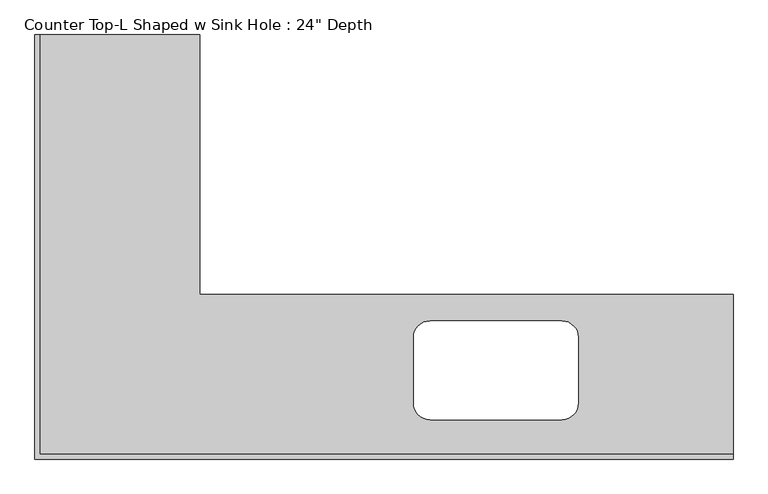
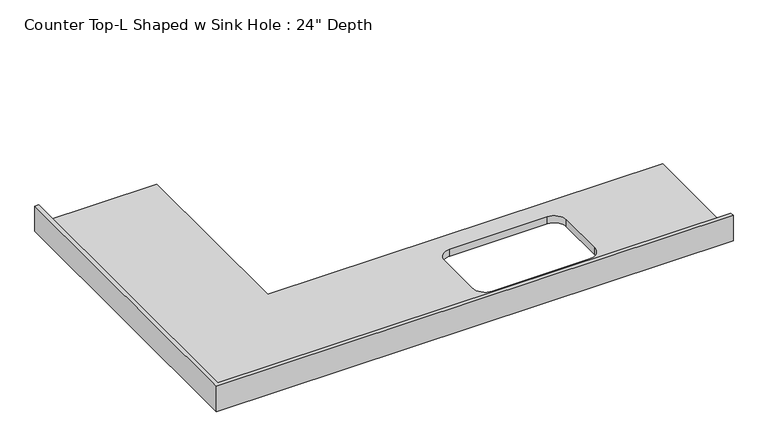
"""IFC4 building model written with IfcOpenShell, lengths in millimetres: furniture geometry."""

from ifc_helpers import new_model, si_unit, frame, origin, place, context, project, spatial, polyline, circle_curve, source, transform, mapped, element, save
from ifc_brep_helpers import plane_surface, revolved_surface, advanced_brep


def furniture_796cbd9a(model_context):
    return source(origin(), model_context, "Body", "AdvancedBrep", [
        advanced_brep(
        [(-565.4622951, 1637.5556117, 863.6), (-1181.4122951, 1637.5556117, 863.6), (-1181.4122951, 19.05, 863.6), (1491.9377049, 19.05, 863.6), (1491.9377049, 635.0, 863.6), (-565.4622951, 635.0, 863.6), (831.5377049, 152.4, 863.6), (323.5377049, 152.4, 863.6), (260.0377049, 215.9, 863.6), (260.0377049, 469.9, 863.6), (323.5377049, 533.4, 863.6), (831.5377049, 533.4, 863.6), (895.0377049, 469.9, 863.6), (895.0377049, 215.9, 863.6), (1491.9377049, 0.0, 825.5), (-1200.4622951, 0.0, 825.5), (-1200.4622951, 1637.5556117, 825.5), (-565.4622951, 1637.5556117, 825.5), (-565.4622951, 635.0, 825.5), (1491.9377049, 635.0, 825.5), (831.5377049, 152.4, 825.5), (895.0377049, 215.9, 825.5), (895.0377049, 469.9, 825.5), (831.5377049, 533.4, 825.5), (323.5377049, 533.4, 825.5), (260.0377049, 469.9, 825.5), (260.0377049, 215.9, 825.5), (323.5377049, 152.4, 825.5), (1491.9377049, 0.0, 965.2), (-1200.4622951, 0.0, 965.2), (-1200.4622951, 1637.5556117, 965.2), (-1181.4122951, 1637.5556117, 965.2), (1491.9377049, 19.05, 965.2), (-1181.4122951, 19.05, 965.2)],
        [
            (0, 1),
            (1, 2),
            (2, 3),
            (3, 4),
            (4, 5),
            (5, 0),
            (6, 7),
            (7, 8, circle_curve(frame((323.5377049, 215.9, 863.6), z_axis=(0.0, 0.0, -1.0), x_axis=(1.0, 0.0, 0.0)), 63.5)),
            (8, 9),
            (9, 10, circle_curve(frame((323.5377049, 469.9, 863.6), z_axis=(0.0, 0.0, -1.0), x_axis=(1.0, 0.0, 0.0)), 63.5)),
            (10, 11),
            (11, 12, circle_curve(frame((831.5377049, 469.9, 863.6), z_axis=(0.0, 0.0, -1.0), x_axis=(1.0, 0.0, 0.0)), 63.5)),
            (12, 13),
            (13, 6, circle_curve(frame((831.5377049, 215.9, 863.6), z_axis=(0.0, 0.0, -1.0), x_axis=(1.0, 0.0, 0.0)), 63.5)),
            (14, 15),
            (15, 16),
            (16, 17),
            (17, 18),
            (18, 19),
            (19, 14),
            (20, 21, circle_curve(frame((831.5377049, 215.9, 825.5), z_axis=(0.0, 0.0, 1.0), x_axis=(1.0, 0.0, 0.0)), 63.5)),
            (21, 22),
            (22, 23, circle_curve(frame((831.5377049, 469.9, 825.5), z_axis=(0.0, 0.0, 1.0), x_axis=(1.0, 0.0, 0.0)), 63.5)),
            (23, 24),
            (24, 25, circle_curve(frame((323.5377049, 469.9, 825.5), z_axis=(0.0, 0.0, 1.0), x_axis=(1.0, 0.0, 0.0)), 63.5)),
            (25, 26),
            (26, 27, circle_curve(frame((323.5377049, 215.9, 825.5), z_axis=(0.0, 0.0, 1.0), x_axis=(1.0, 0.0, 0.0)), 63.5)),
            (27, 20),
            (14, 28),
            (28, 29),
            (29, 15),
            (29, 30),
            (30, 16),
            (30, 31),
            (31, 1),
            (0, 17),
            (5, 18),
            (4, 19),
            (3, 32),
            (32, 28),
            (13, 21),
            (20, 6),
            (12, 22),
            (11, 23),
            (10, 24),
            (9, 25),
            (8, 26),
            (7, 27),
            (32, 33),
            (33, 31),
            (2, 33),
        ],
        [
            plane_surface(frame((-1200.4622951, 0.0, 863.6), z_axis=(0.0, 0.0, 1.0), x_axis=(-1.0, 0.0, 0.0))),
            plane_surface(frame((-1200.4622951, 0.0, 825.5), z_axis=(0.0, 0.0, -1.0), x_axis=(1.0, 0.0, 0.0))),
            plane_surface(frame((1491.9377049, 0.0, 863.6), z_axis=(0.0, -1.0, 0.0), x_axis=(0.0, 0.0, -1.0))),
            plane_surface(frame((-1200.4622951, 0.0, 863.6), z_axis=(-1.0, 0.0, 0.0), x_axis=(0.0, 0.0, -1.0))),
            plane_surface(frame((-1200.4622951, 1637.5556117, 863.6), z_axis=(0.0, 1.0, 0.0), x_axis=(0.0, 0.0, -1.0))),
            plane_surface(frame((-565.4622951, 1637.5556117, 863.6), z_axis=(1.0, 0.0, 0.0), x_axis=(0.0, 0.0, -1.0))),
            plane_surface(frame((-565.4622951, 635.0, 863.6), z_axis=(0.0, 1.0, 0.0), x_axis=(0.0, 0.0, -1.0))),
            plane_surface(frame((1491.9377049, 635.0, 863.6), z_axis=(1.0, 0.0, 0.0), x_axis=(0.0, 0.0, -1.0))),
            revolved_surface(polyline([(895.0377049, 215.9, 825.5), (895.0377049, 215.9, 863.6)]), (831.5377049, 215.9, 0.0), (0.0, 0.0, -1.0)),
            plane_surface(frame((895.0377049, 215.9, 863.6), z_axis=(-1.0, 0.0, 0.0), x_axis=(0.0, 0.0, -1.0))),
            revolved_surface(polyline([(895.0377049, 469.9, 825.5), (895.0377049, 469.9, 863.6)]), (831.5377049, 469.9, 0.0), (0.0, 0.0, -1.0)),
            plane_surface(frame((831.5377049, 533.4, 863.6), z_axis=(0.0, -1.0, 0.0), x_axis=(0.0, 0.0, -1.0))),
            revolved_surface(polyline([(387.0377049, 469.9, 825.5), (387.0377049, 469.9, 863.6)]), (323.5377049, 469.9, 0.0), (0.0, 0.0, -1.0)),
            plane_surface(frame((260.0377049, 469.9, 863.6), z_axis=(1.0, 0.0, 0.0), x_axis=(0.0, 0.0, -1.0))),
            revolved_surface(polyline([(387.0377049, 215.9, 825.5), (387.0377049, 215.9, 863.6)]), (323.5377049, 215.9, 0.0), (0.0, 0.0, -1.0)),
            plane_surface(frame((323.5377049, 152.4, 863.6), z_axis=(0.0, 1.0, 0.0), x_axis=(0.0, 0.0, -1.0))),
            plane_surface(frame((-1200.4622951, 0.0, 965.2), z_axis=(0.0, 0.0, 1.0), x_axis=(0.0, 1.0, 0.0))),
            plane_surface(frame((-1200.4622951, 19.05, 965.2), z_axis=(0.0, 1.0, 0.0), x_axis=(0.0, 0.0, -1.0))),
            plane_surface(frame((-1181.4122951, 1637.5556117, 965.2), z_axis=(1.0, 0.0, 0.0), x_axis=(0.0, 0.0, -1.0))),
        ],
        [
            (0, [[1, 2, 3, 4, 5, 6], [7, 8, 9, 10, 11, 12, 13, 14]]),
            (1, [[15, 16, 17, 18, 19, 20], [21, 22, 23, 24, 25, 26, 27, 28]]),
            (2, [[29, 30, 31, -15]]),
            (3, [[-31, 32, 33, -16]]),
            (4, [[34, 35, -1, 36, -17, -33]]),
            (5, [[37, -18, -36, -6]]),
            (6, [[38, -19, -37, -5]]),
            (7, [[-38, -4, 39, 40, -29, -20]]),
            (8, [[41, -21, 42, -14]]),
            (9, [[43, -22, -41, -13]]),
            (10, [[44, -23, -43, -12]]),
            (11, [[45, -24, -44, -11]]),
            (12, [[46, -25, -45, -10]]),
            (13, [[47, -26, -46, -9]]),
            (14, [[48, -27, -47, -8]]),
            (15, [[-42, -28, -48, -7]]),
            (16, [[-30, -40, 49, 50, -34, -32]]),
            (17, [[-3, 51, -49, -39]]),
            (18, [[-51, -2, -35, -50]]),
        ],
    ),
    ])


if __name__ == "__main__":
    model = new_model("IFC4")
    model_context = context("Model", 3, world=origin())
    ifc_project = project(units=[si_unit("LENGTHUNIT", "METRE", prefix="MILLI")], contexts=[model_context])
    site = spatial("IfcSite", under=ifc_project)
    building = spatial("IfcBuilding", under=site)
    placement = place(None, origin())
    furniture_shape = furniture_796cbd9a(model_context)
    element("IfcFurniture", 1, ObjectType="Counter Top-L Shaped w Sink Hole : 24\" Depth", at=placement, inside=building, context=model_context, shape_type="MappedRepresentation", body=[
        mapped(furniture_shape, transform((0.0, 0.0, 0.0), x_axis=(1.0, 0.0, 0.0), y_axis=(0.0, 1.0, 0.0), z_axis=(0.0, 0.0, 1.0))),
    ])
    save(model, "model.ifc")
